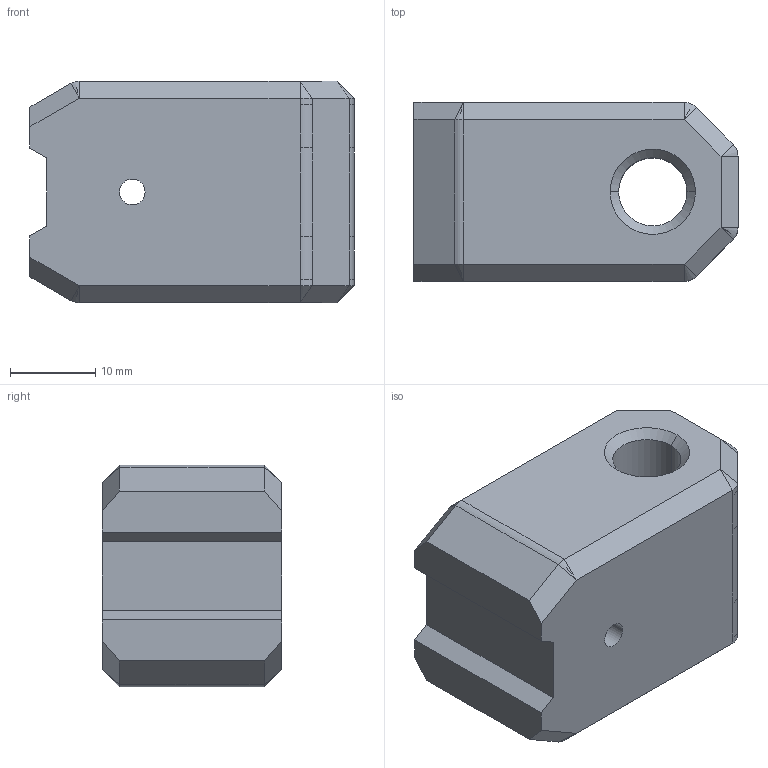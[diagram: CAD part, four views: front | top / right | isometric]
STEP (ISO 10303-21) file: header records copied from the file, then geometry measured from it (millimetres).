
FILE_DESCRIPTION(('CATIA V5 STEP Exchange'),'2;1');
FILE_NAME('D:\Gao Bingchuan\Desktop\SHT0016548_CNC PA6_20230926.stp','2023-09-26T11:22:13+00:00',('none'),('none'),'CATIA Version 5 Release 20 GA (IN-10)','CATIA V5 STEP AP203 Edition 2','none');
FILE_SCHEMA(('AP203_CONFIGURATION_CONTROLLED_3D_DESIGN_OF_MECHANICAL_PARTS_AND_ASSEMBLIES_MIM_LF { 1 0 10303 403 2 1 2}'));
Length unit declared in the file: millimetre
Products named in the file (1): SHT0016548
Bounding box: 38 x 21 x 26 mm (x, y, z)
Volume: 14758.1 mm3; surface area: 5387.2 mm2
Topology: 1 solids, 1 shells, 84 faces, 273 edges, 181 vertices
Faces by surface type: cylinder 30, plane 30, cone 20, torus 4
Entity records: 3591 total; most frequent: CARTESIAN_POINT 696, ORIENTED_EDGE 522, DIRECTION 399, EDGE_CURVE 261, VECTOR 190, LINE 190, VERTEX_POINT 181, AXIS2_PLACEMENT_3D 136
